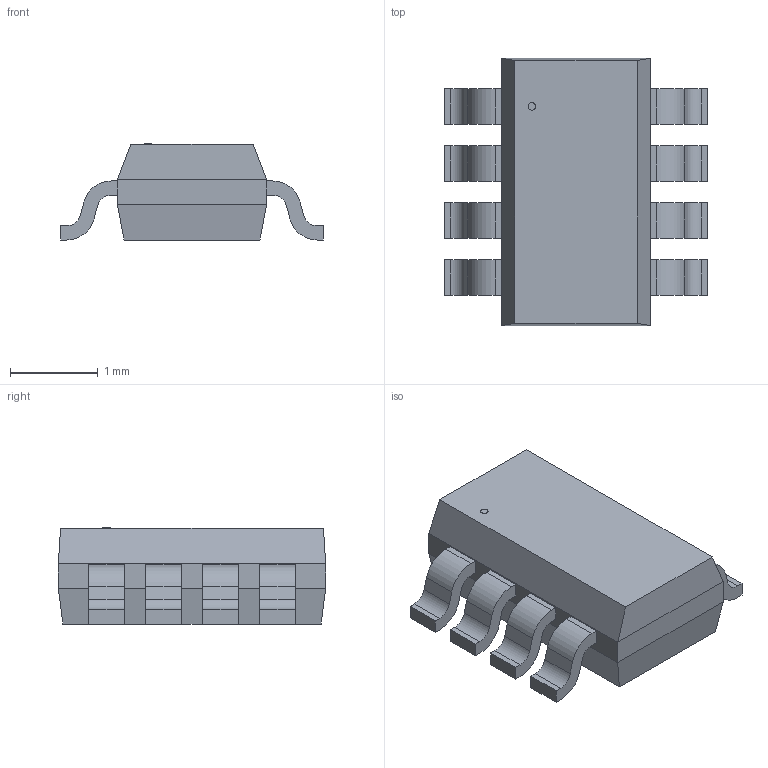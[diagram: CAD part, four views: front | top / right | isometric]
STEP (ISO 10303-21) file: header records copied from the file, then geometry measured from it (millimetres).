
FILE_DESCRIPTION(('STEP AP214'),'1');
FILE_NAME('TSOT_303AIC_SGY','2025-11-04T05:12:06',(''),(''),'','','');
FILE_SCHEMA(('AUTOMOTIVE_DESIGN'));
Length unit declared in the file: millimetre
Products named in the file (1): product
Bounding box: 3 x 3.05 x 1.09 mm (x, y, z)
Volume: 5.8 mm3; surface area: 28.6 mm2
Topology: 10 solids, 10 shells, 129 faces, 319 edges, 210 vertices
Faces by surface type: plane 96, cylinder 33
Full cylindrical faces by diameter (mm): 0.085 x1
Entity records: 3789 total; most frequent: DIRECTION 646, ORIENTED_EDGE 636, CARTESIAN_POINT 375, EDGE_CURVE 318, LINE 252, VECTOR 252, VERTEX_POINT 210, AXIS2_PLACEMENT_3D 197
